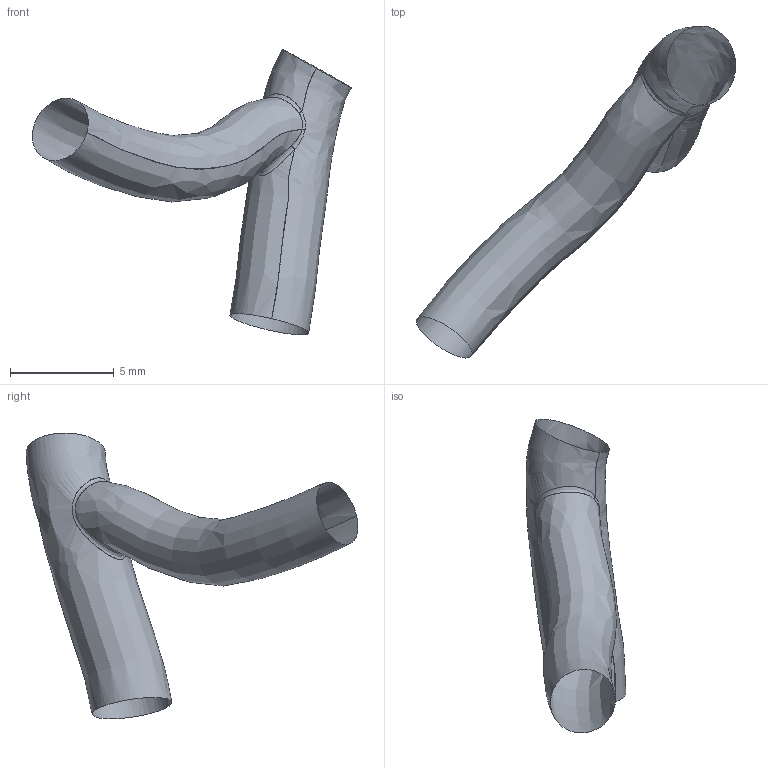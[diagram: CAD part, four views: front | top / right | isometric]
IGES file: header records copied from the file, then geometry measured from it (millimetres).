
Global section: file name: C:\Documents and Settings\Administrator\Desktop\FDA-Pig\Domestic LCA\Pig_000006\lcx.ed.igs; native system: Rhinoceros ( May 19 2006 ); preprocessor: Trout Lake IGES 012 May 19 2006; date: 111205.183554; units: centimetre
Bounding box: 15.36 x 15.96 x 13.74 mm (x, y, z)
Surface area: 306.1 mm2 (no closed solid volume)
Topology: 0 solids, 0 shells, 5 faces, 59 edges, 58 vertices
Faces by surface type: bspline 5
